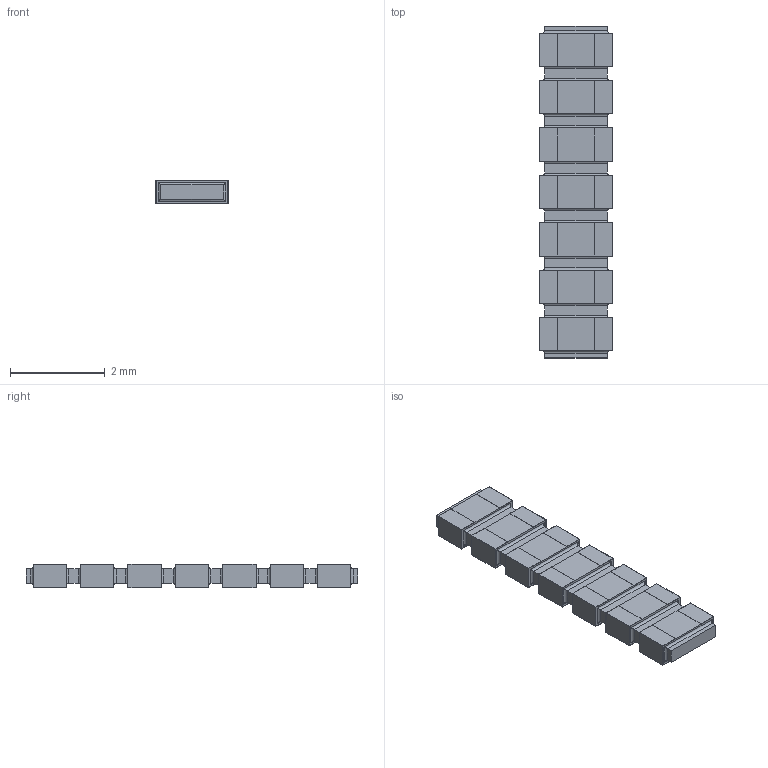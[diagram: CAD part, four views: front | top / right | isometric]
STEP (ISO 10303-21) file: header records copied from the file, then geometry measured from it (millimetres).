
FILE_DESCRIPTION(/* description */ (''),/* implementation_level */ '2;1');
FILE_NAME(/* name */ 'S:\DOCUMENT\AUTOCAD\3D_Modèles\10_3D-pour-VISHAY-COM\PRA\PRA100\PRA100-I2_à_I8\20_STEP\PRA100I7_B-or-N-or-G.stp',/* time_stamp */ '2017-12-18T09:17:06+01:00',/* author */ ('dparmentier'),/* organization */ ('unknown'),/* preprocessor_version */ 'ST-DEVELOPER v17',/* originating_system */ 'Autodesk Inventor 2018',/* authorisation */ '');
FILE_SCHEMA (('AUTOMOTIVE_DESIGN { 1 0 10303 214 3 1 1 }'));
Length unit declared in the file: millimetre
Products named in the file (1): PRA100I7_B-or-N-or-G
Bounding box: 1.52 x 7 x 0.5 mm (x, y, z)
Volume: 4.5 mm3; surface area: 55.8 mm2
Topology: 15 solids, 15 shells, 272 faces, 628 edges, 400 vertices
Faces by surface type: plane 216, cylinder 56
Entity records: 7559 total; most frequent: CARTESIAN_POINT 1301, ORIENTED_EDGE 1256, DIRECTION 1230, EDGE_CURVE 628, LINE 572, VECTOR 572, VERTEX_POINT 400, AXIS2_PLACEMENT_3D 329
